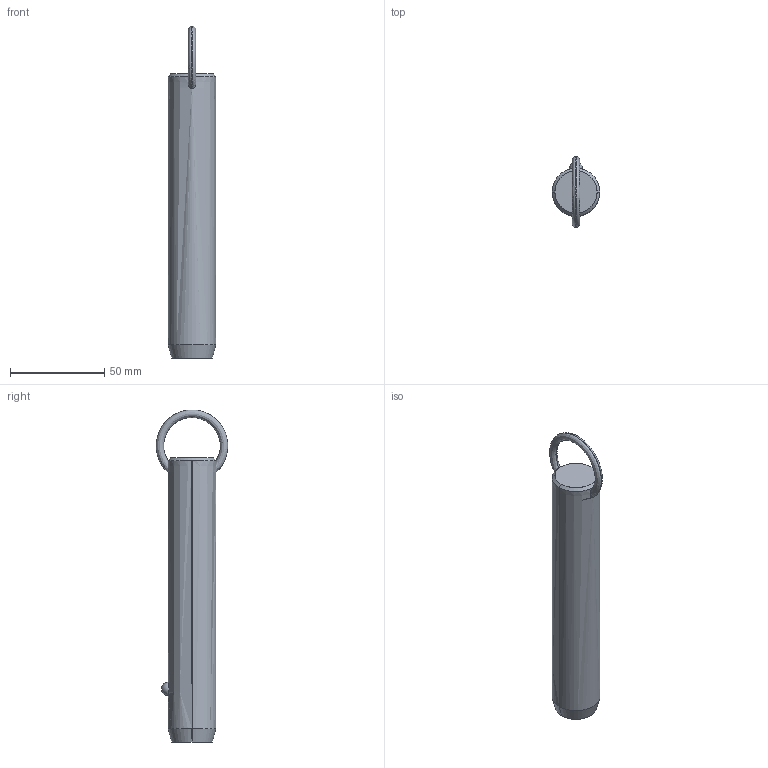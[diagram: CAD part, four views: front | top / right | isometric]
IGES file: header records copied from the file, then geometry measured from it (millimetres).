
Start section: SolidWorks IGES file using analytic representation for surfaces
Global section: file name: C:\Users\liam_\OneDrive\Documents\WORK\Work for WixRoyd\Job Files\J-00019 - Matt Davis CAD Checking\04. CAD Drawings\automotion20190605\P1250.2_v2\P1250.2_v2_20190729_IGES\P1250.100-420.igs; native system: SolidWorks 2017; preprocessor: SolidWorks 2017; author: liam_; date: 190730.173933; units: millimetre
Bounding box: 25.4 x 38.1 x 176.48 mm (x, y, z)
Surface area: 13830.6 mm2 (no closed solid volume)
Topology: 0 solids, 0 shells, 12 faces, 298 edges, 296 vertices
Faces by surface type: revolution 8, bspline 4
